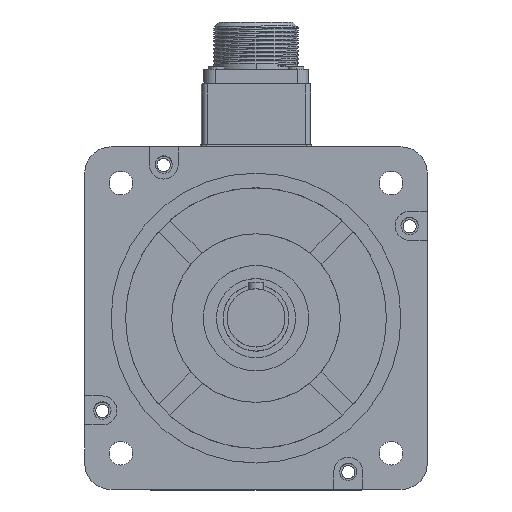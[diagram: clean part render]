
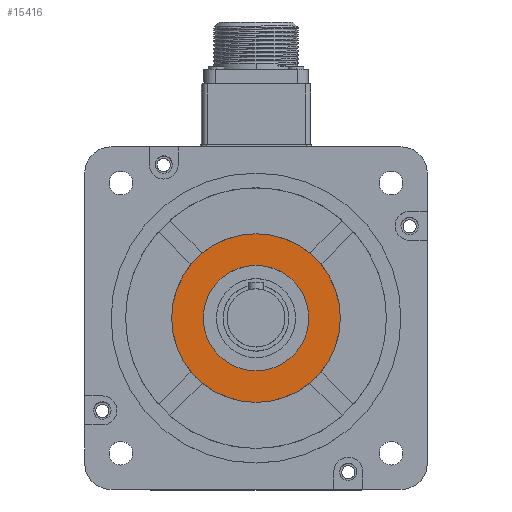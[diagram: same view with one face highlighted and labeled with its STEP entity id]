
A CAD part, top view. The second image highlights one B-rep face of the part: STEP entity #15416.
In plain terms, the highlighted planar face has unit normal (0, 0, -1).
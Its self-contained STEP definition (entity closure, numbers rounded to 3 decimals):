
#6817 = EDGE_CURVE ( 'NONE', #17476, #18078, #12397, .T. ) ;
#6842 = EDGE_CURVE ( 'NONE', #17470, #18419, #11981, .T. ) ;
#7196 = EDGE_CURVE ( 'NONE', #18078, #17476, #12119, .T. ) ;
#7299 = EDGE_CURVE ( 'NONE', #18419, #17470, #12509, .T. ) ;
#8235 = EDGE_LOOP ( 'NONE', ( #28904, #28786 ) ) ;
#8372 = EDGE_LOOP ( 'NONE', ( #28730, #28472 ) ) ;
#11897 = AXIS2_PLACEMENT_3D ( 'NONE', #32925, #32546, #33241 ) ;
#11981 = CIRCLE ( 'NONE', #12593, 20. ) ;
#12119 = CIRCLE ( 'NONE', #12179, 32. ) ;
#12179 = AXIS2_PLACEMENT_3D ( 'NONE', #33305, #32895, #32569 ) ;
#12397 = CIRCLE ( 'NONE', #12477, 32. ) ;
#12477 = AXIS2_PLACEMENT_3D ( 'NONE', #25781, #25717, #25775 ) ;
#12509 = CIRCLE ( 'NONE', #11897, 20. ) ;
#12593 = AXIS2_PLACEMENT_3D ( 'NONE', #25774, #25805, #25777 ) ;
#15416 = ADVANCED_FACE ( 'NONE', ( #27909, #28066 ), #27428, .T. ) ;
#17470 = VERTEX_POINT ( 'NONE', #25491 ) ;
#17476 = VERTEX_POINT ( 'NONE', #25449 ) ;
#18078 = VERTEX_POINT ( 'NONE', #31510 ) ;
#18419 = VERTEX_POINT ( 'NONE', #31754 ) ;
#19825 = AXIS2_PLACEMENT_3D ( 'NONE', #27440, #28086, #28012 ) ;
#25449 = CARTESIAN_POINT ( 'NONE',  ( 32., 0., 121. ) ) ;
#25491 = CARTESIAN_POINT ( 'NONE',  ( 20., 0., 121. ) ) ;
#25717 = DIRECTION ( 'NONE',  ( 0., 0., -1. ) ) ;
#25774 = CARTESIAN_POINT ( 'NONE',  ( 0., 0., 121. ) ) ;
#25775 = DIRECTION ( 'NONE',  ( -1., 0., 0. ) ) ;
#25777 = DIRECTION ( 'NONE',  ( -1., 0., 0. ) ) ;
#25781 = CARTESIAN_POINT ( 'NONE',  ( 0., 0., 121. ) ) ;
#25805 = DIRECTION ( 'NONE',  ( 0., 0., 1. ) ) ;
#27428 = PLANE ( 'NONE',  #19825 ) ;
#27440 = CARTESIAN_POINT ( 'NONE',  ( 0., 20., 121. ) ) ;
#27909 = FACE_BOUND ( 'NONE', #8372, .T. ) ;
#28012 = DIRECTION ( 'NONE',  ( -1., 0., 0. ) ) ;
#28066 = FACE_OUTER_BOUND ( 'NONE', #8235, .T. ) ;
#28086 = DIRECTION ( 'NONE',  ( 0., 0., -1. ) ) ;
#28472 = ORIENTED_EDGE ( 'NONE', *, *, #6842, .T. ) ;
#28730 = ORIENTED_EDGE ( 'NONE', *, *, #7299, .T. ) ;
#28786 = ORIENTED_EDGE ( 'NONE', *, *, #6817, .T. ) ;
#28904 = ORIENTED_EDGE ( 'NONE', *, *, #7196, .T. ) ;
#31510 = CARTESIAN_POINT ( 'NONE',  ( -32., 0., 121. ) ) ;
#31754 = CARTESIAN_POINT ( 'NONE',  ( -20., 0., 121. ) ) ;
#32546 = DIRECTION ( 'NONE',  ( 0., 0., 1. ) ) ;
#32569 = DIRECTION ( 'NONE',  ( -1., 0., 0. ) ) ;
#32895 = DIRECTION ( 'NONE',  ( 0., 0., -1. ) ) ;
#32925 = CARTESIAN_POINT ( 'NONE',  ( 0., 0., 121. ) ) ;
#33241 = DIRECTION ( 'NONE',  ( -1., 0., 0. ) ) ;
#33305 = CARTESIAN_POINT ( 'NONE',  ( 0., 0., 121. ) ) ;
